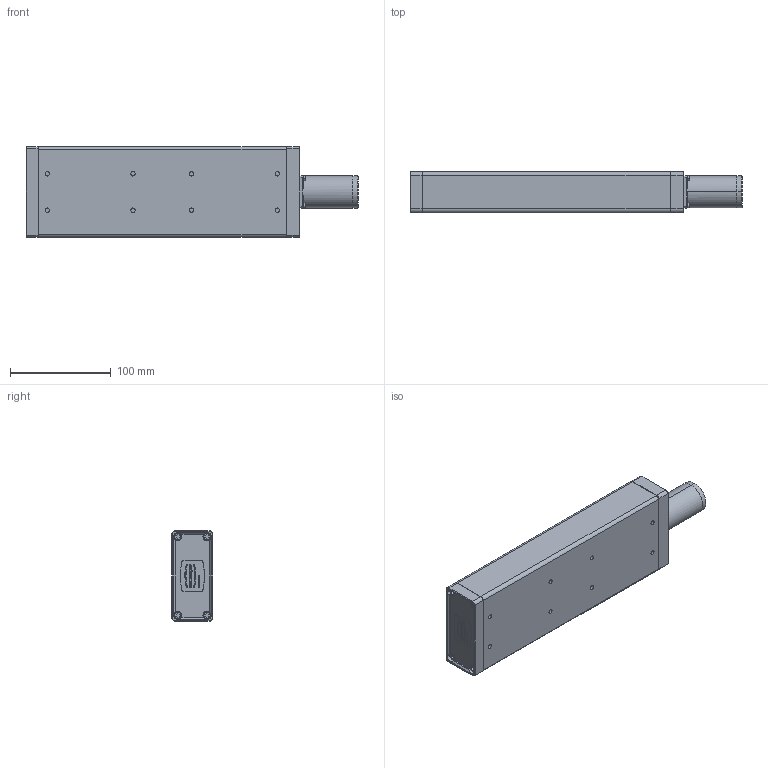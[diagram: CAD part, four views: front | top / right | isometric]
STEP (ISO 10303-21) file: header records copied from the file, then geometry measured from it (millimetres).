
FILE_DESCRIPTION((''),'2;1');
FILE_NAME('STM_LTP90_552357_ASM','2026-04-24T08:02:55',('profile'),(''),'CREO PARAMETRIC BY PTC INC, 2025123','CREO PARAMETRIC BY PTC INC, 2025123','');
FILE_SCHEMA(('AP242_MANAGED_MODEL_BASED_3D_ENGINEERING_MIM_LF { 1 0 10303 442 1 1 4 }'));
Length unit declared in the file: millimetre
Products named in the file (7): STM_GRUND_552352; AL_ALUMINIUM; STM_SCHIE_552351; STM_ABDEC_552348; STM_LTP90_552357_ASM
Assembly tree (3 placements, depth 2):
  AL_ALUMINIUM
  AL_ALUMINIUM
  AL_ALUMINIUM
  STM_LTP90_552357_ASM
    STM_GRUND_552352
    STM_SCHIE_552351
    STM_ABDEC_552348
Bounding box: 329 x 41.3 x 90 mm (x, y, z)
Volume: 808962.4 mm3; surface area: 149189.3 mm2
Topology: 3 solids, 3 shells, 903 faces, 2189 edges, 1382 vertices
Faces by surface type: plane 519, cylinder 181, extrusion 105, cone 98
Entity records: 39997 total; most frequent: CARTESIAN_POINT 10090, ORIENTED_EDGE 4378, DIRECTION 4206, PRESENTATION_STYLE_ASSIGNMENT 2299, STYLED_ITEM 2228, CURVE_STYLE 2225, EDGE_CURVE 2189, VECTOR 1614
